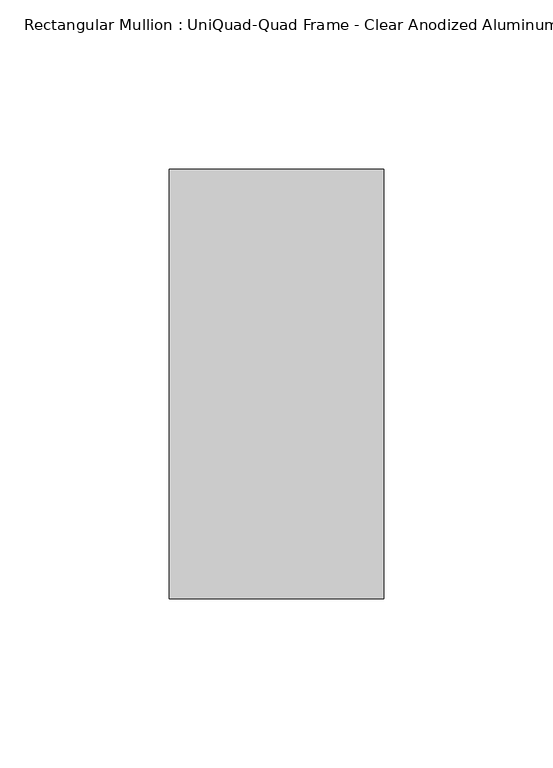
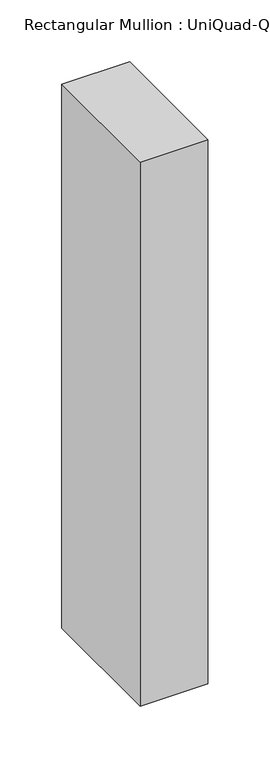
"""IFC4 building model written with IfcOpenShell, lengths in millimetres: member geometry, Rectangular Mullion : UniQuad-Quad Frame - Clear Anodized Aluminum."""

from ifc_helpers import new_model, si_unit, frame, origin, place, context, project, spatial, polyline, outline, extrude, source, transform, mapped, element, save


def rectangular_mullion_uniquad_quad_frame_clear_anodized_5699e573(model_context):
    return source(origin(), model_context, "Body", "SweptSolid", [
        extrude(outline(polyline([(0.0, 63.5), (0.0, -63.5), (-63.5, -63.5), (-63.5, 63.5), (0.0, 63.5)])), frame((0.0, 0.0, -538.4601562), z_axis=(0.0, 0.0, 1.0), x_axis=(1.0, 0.0, 0.0)), (0.0, 0.0, 1.0), 538.4601562),
    ])


if __name__ == "__main__":
    model = new_model("IFC4")
    model_context = context("Model", 3, world=origin())
    ifc_project = project(units=[si_unit("LENGTHUNIT", "METRE", prefix="MILLI")], contexts=[model_context])
    site = spatial("IfcSite", under=ifc_project)
    building = spatial("IfcBuilding", under=site)
    placement = place(None, origin())
    rectangular_mullion_uniquad_quad_frame_clear_anodized_shape = rectangular_mullion_uniquad_quad_frame_clear_anodized_5699e573(model_context)
    element("IfcMember", 1, ObjectType="Rectangular Mullion : UniQuad-Quad Frame - Clear Anodized Aluminum", at=placement, inside=building, context=model_context, shape_type="MappedRepresentation", body=[
        mapped(rectangular_mullion_uniquad_quad_frame_clear_anodized_shape, transform((0.0, 0.0, 0.0), x_axis=(1.0, 0.0, 0.0), y_axis=(0.0, 1.0, 0.0), z_axis=(0.0, 0.0, 1.0))),
    ])
    save(model, "model.ifc")
